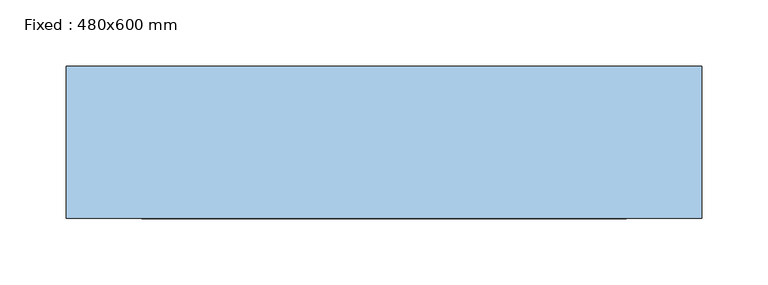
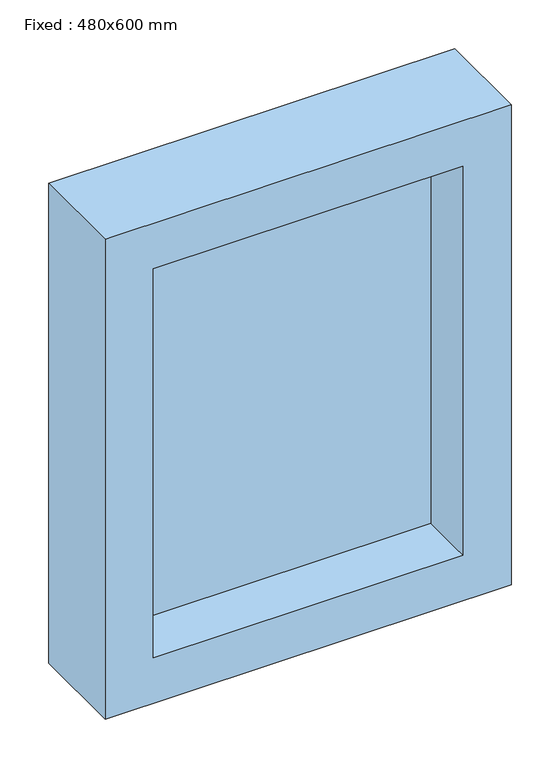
"""IFC4 building model written with IfcOpenShell, lengths in millimetres: window geometry, Fixed : 480x600 mm."""

import ifcopenshell
import ifcopenshell.guid

model = None  # the IFC model being written
_history = None  # IfcOwnerHistory: only IFC2X3 demands one
_inside = {}  # id of a spatial element -> (the spatial element, [elements in it])
_under = {}  # id of a project, library or spatial element -> (it, [spatial elements below it])
_declared = {}  # id of a project -> (the project, [libraries it declares])
_typed = {}  # id of a type object -> (the type object, [elements of that type])
_made_of = {}  # id of a material, layer set ... -> (it, [elements and type objects made of it])


def new_model(schema):
    """Start an empty IFC model of exactly this schema.

    Asked for "IFC4X3", IfcOpenShell would pick the latest addendum, in which some entities
    have other attributes; the version numbers below select the first issue.
    IFC2X3 requires an IfcOwnerHistory on every rooted entity: one is made here for all.
    """
    global model, _history
    if schema == "IFC4X3":
        model = ifcopenshell.file(schema_version=(4, 3, 0, 0))
    else:
        model = ifcopenshell.file(schema=schema)
    _inside.clear()
    _under.clear()
    _declared.clear()
    _typed.clear()
    _made_of.clear()
    _history = None
    if model.schema == "IFC2X3":
        org = make("IfcOrganization", Name="unknown")
        user = make(
            "IfcPersonAndOrganization",
            ThePerson=make("IfcPerson", FamilyName="unknown"),
            TheOrganization=org,
        )
        app = make(
            "IfcApplication",
            ApplicationDeveloper=org,
            Version="unknown",
            ApplicationFullName="unknown",
            ApplicationIdentifier="unknown",
        )
        _history = make(
            "IfcOwnerHistory",
            OwningUser=user,
            OwningApplication=app,
            ChangeAction="ADDED",
            CreationDate=0,
        )
    return model


def make(cls, **values):
    """One entity of the class cls with the attributes given. An attribute that is None is left unset."""
    return model.create_entity(
        cls, **{name: value for name, value in values.items() if value is not None}
    )


def rooted(cls, **values):
    """An entity with a GlobalId (a new one), such as an element, a storey or a relation."""
    return make(cls, GlobalId=ifcopenshell.guid.new(), OwnerHistory=_history, **values)


def si_unit(unit_type, name, prefix=None):
    """IfcSIUnit, for example si_unit("LENGTHUNIT", "METRE", prefix="MILLI")."""
    return make("IfcSIUnit", UnitType=unit_type, Prefix=prefix, Name=name)


def assignment(units):
    """IfcUnitAssignment: the units of a project."""
    return None if units is None else make("IfcUnitAssignment", Units=units)


def point(xyz):
    """IfcCartesianPoint."""
    return None if xyz is None else make("IfcCartesianPoint", Coordinates=xyz)


def direction(xyz):
    """IfcDirection."""
    return None if xyz is None else make("IfcDirection", DirectionRatios=xyz)


def frame(location, z_axis=None, x_axis=None):
    """IfcAxis2Placement3D, a coordinate frame: its origin and axes. An axis left out is left unset."""
    return make(
        "IfcAxis2Placement3D",
        Location=point(location),
        Axis=direction(z_axis),
        RefDirection=direction(x_axis),
    )


def origin():
    """The frame at (0, 0, 0) with its axes left unset."""
    return frame((0.0, 0.0, 0.0))


def place(relative_to, where):
    """IfcLocalPlacement: puts the frame where relative to a parent placement (None: the world)."""
    return make(
        "IfcLocalPlacement", PlacementRelTo=relative_to, RelativePlacement=where
    )


def context(
    kind, dimensions, precision=None, world=None, true_north=None, identifier=None
):
    """IfcGeometricRepresentationContext, for example the 3D "Model" context."""
    return make(
        "IfcGeometricRepresentationContext",
        ContextIdentifier=identifier,
        ContextType=kind,
        CoordinateSpaceDimension=dimensions,
        Precision=precision,
        WorldCoordinateSystem=world,
        TrueNorth=true_north,
    )


def project(units=None, contexts=None):
    """IfcProject with its units and contexts."""
    return rooted(
        "IfcProject",
        Name="project",
        RepresentationContexts=contexts,
        UnitsInContext=assignment(units),
    )


def spatial(cls, under=None, at=None, **own):
    """A site, building, storey or space (cls), placed at a placement, below another one or the project."""
    s = rooted(cls, ObjectPlacement=at, **own)
    if under is not None:
        _under.setdefault(under.id(), (under, []))[1].append(s)
    return s


def polyline(points):
    """IfcPolyline through the points."""
    return make("IfcPolyline", Points=[point(p) for p in points])


def outline(outer, holes=None, kind="AREA"):
    """IfcArbitraryClosedProfileDef: a profile drawn as a closed curve; with holes, ...WithVoids."""
    if holes is None:
        return make("IfcArbitraryClosedProfileDef", ProfileType=kind, OuterCurve=outer)
    return make(
        "IfcArbitraryProfileDefWithVoids",
        ProfileType=kind,
        OuterCurve=outer,
        InnerCurves=holes,
    )


def extrude(swept, where, along, depth):
    """IfcExtrudedAreaSolid: the profile swept, set in the frame where, extruded along a direction by depth."""
    return make(
        "IfcExtrudedAreaSolid",
        SweptArea=swept,
        Position=where,
        ExtrudedDirection=direction(along),
        Depth=depth,
    )


def shape(context_of_items, identifier, shape_type, items):
    """IfcShapeRepresentation: the items that make up one representation, for example the "Body"."""
    return make(
        "IfcShapeRepresentation",
        ContextOfItems=context_of_items,
        RepresentationIdentifier=identifier,
        RepresentationType=shape_type,
        Items=items,
    )


def source(mapping_origin, context_of_items, identifier, shape_type, items):
    """IfcRepresentationMap: a shape defined once, which mapped items show again and again."""
    return make(
        "IfcRepresentationMap",
        MappingOrigin=mapping_origin,
        MappedRepresentation=shape(context_of_items, identifier, shape_type, items),
    )


def transform(
    local_origin,
    x_axis=None,
    y_axis=None,
    z_axis=None,
    scale=None,
    scale2=None,
    scale3=None,
    uniform=True,
):
    """IfcCartesianTransformationOperator3D, or its non-uniform kind. x_axis, y_axis, z_axis: its Axis1, 2, 3."""
    if uniform:
        return make(
            "IfcCartesianTransformationOperator3D",
            Axis1=direction(x_axis),
            Axis2=direction(y_axis),
            LocalOrigin=point(local_origin),
            Scale=scale,
            Axis3=direction(z_axis),
        )
    return make(
        "IfcCartesianTransformationOperator3DnonUniform",
        Axis1=direction(x_axis),
        Axis2=direction(y_axis),
        LocalOrigin=point(local_origin),
        Scale=scale,
        Axis3=direction(z_axis),
        Scale2=scale2,
        Scale3=scale3,
    )


def mapped(mapping_source, mapping_target):
    """IfcMappedItem: shows the shape of a source again, moved by a transform."""
    return make(
        "IfcMappedItem", MappingSource=mapping_source, MappingTarget=mapping_target
    )


def made_of(thing, what):
    """Note that an element or type object is made of a material, layer set ...; save() writes the relation."""
    if what is not None:
        _made_of.setdefault(what.id(), (what, []))[1].append(thing)
    return thing


def element(
    cls,
    number,
    at=None,
    inside=None,
    cuts=None,
    type_object=None,
    material=None,
    context=None,
    identifier="Body",
    shape_type=None,
    held_by="IfcProductDefinitionShape",
    body=None,
    shapes=None,
    **own,
):
    """One element of the class cls, such as IfcWall. Its Tag is "e" and its number.

    at: its placement. inside: the storey or other place that contains it. cuts: it is an
    opening in that element (IfcRelVoidsElement). A single representation is given by context,
    identifier, shape_type and body (its items); several are given by shapes. held_by: the class
    of the entity that holds the representations. save() writes the other relations.
    """
    e = rooted(cls, Tag="e%d" % number, ObjectPlacement=at, **own)
    if body is not None:
        shapes = [shape(context, identifier, shape_type, body)]
    if shapes is not None:
        e.Representation = make(held_by, Representations=shapes)
    if inside is not None:
        _inside.setdefault(inside.id(), (inside, []))[1].append(e)
    if cuts is not None:
        rooted(
            "IfcRelVoidsElement", RelatingBuildingElement=cuts, RelatedOpeningElement=e
        )
    if type_object is not None:
        _typed.setdefault(type_object.id(), (type_object, []))[1].append(e)
    return made_of(e, material)


def aggregate(whole, parts):
    """IfcRelAggregates: a whole, such as a stair, and the parts it consists of."""
    return rooted("IfcRelAggregates", RelatingObject=whole, RelatedObjects=parts)


def save(model, path):
    """Write the relations noted so far, then the file.

    IfcRelAggregates (storeys below a building ...), IfcRelContainedInSpatialStructure (elements
    in a storey), IfcRelDefinesByType, IfcRelAssociatesMaterial and IfcRelDeclares: one each for
    every whole, place, type object, material and project.
    """
    for whole, parts in _under.values():
        aggregate(whole, parts)
    for where, things in _inside.values():
        rooted(
            "IfcRelContainedInSpatialStructure",
            RelatedElements=things,
            RelatingStructure=where,
        )
    for kind, things in _typed.values():
        rooted("IfcRelDefinesByType", RelatedObjects=things, RelatingType=kind)
    for what, things in _made_of.values():
        rooted("IfcRelAssociatesMaterial", RelatedObjects=things, RelatingMaterial=what)
    for by, libraries in _declared.values():
        rooted("IfcRelDeclares", RelatingContext=by, RelatedDefinitions=libraries)
    model.write(path)


def fixed_480x600_mm_b97dc9c7(model_context):
    return source(origin(), model_context, "Body", "SweptSolid", [
        extrude(outline(polyline([(800.0, 240.0), (1400.0, 240.0), (1400.0, -240.0), (800.0, -240.0), (800.0, 240.0)]), holes=[polyline([(1343.0, 183.0), (857.0, 183.0), (857.0, -183.0), (1343.0, -183.0), (1343.0, 183.0)])]), frame((0.0, 75.0, 0.0), z_axis=(0.0, 1.0, 0.0), x_axis=(0.0, 0.0, 1.0)), (0.0, 0.0, 1.0), 115.0),
        extrude(outline(polyline([(-183.0, 168.0), (183.0, 168.0), (183.0, 140.0), (-183.0, 140.0), (-183.0, 168.0)])), frame((0.0, 0.0, 857.0), z_axis=(0.0, 0.0, 1.0), x_axis=(1.0, 0.0, 0.0)), (0.0, 0.0, 1.0), 486.0),
    ])


if __name__ == "__main__":
    model = new_model("IFC4")
    model_context = context("Model", 3, world=origin())
    ifc_project = project(units=[si_unit("LENGTHUNIT", "METRE", prefix="MILLI")], contexts=[model_context])
    site = spatial("IfcSite", under=ifc_project)
    building = spatial("IfcBuilding", under=site)
    placement = place(None, origin())
    fixed_480x600_mm_shape = fixed_480x600_mm_b97dc9c7(model_context)
    element("IfcWindow", 1, ObjectType="Fixed : 480x600 mm", at=placement, inside=building, context=model_context, shape_type="MappedRepresentation", body=[
        mapped(fixed_480x600_mm_shape, transform((0.0, 0.0, 0.0), x_axis=(1.0, 0.0, 0.0), y_axis=(0.0, 1.0, 0.0), z_axis=(0.0, 0.0, 1.0))),
    ])
    save(model, "model.ifc")
